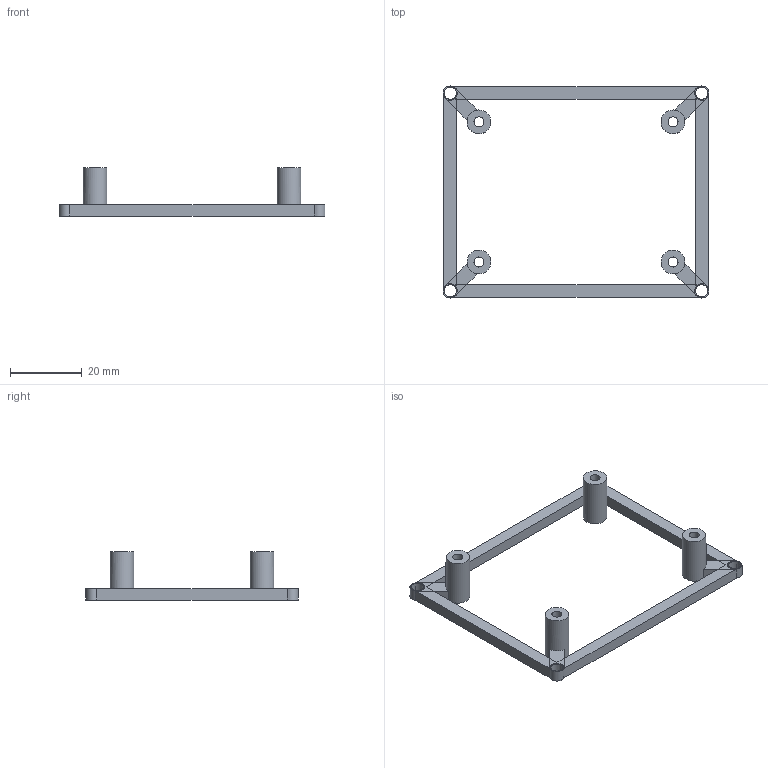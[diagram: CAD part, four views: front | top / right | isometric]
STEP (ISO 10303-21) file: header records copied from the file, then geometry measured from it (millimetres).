
FILE_DESCRIPTION(('Open CASCADE Model'),'2;1');
FILE_NAME('Open CASCADE Shape Model','2026-11-19T15:07:55',('Author'),( 'Open CASCADE'),'Open CASCADE STEP processor 8.0','Open CASCADE 8.0' ,'Unknown');
FILE_SCHEMA(('AUTOMOTIVE_DESIGN { 1 0 10303 214 1 1 1 1 }'));
Length unit declared in the file: millimetre
Products named in the file (1): Open CASCADE STEP translator 8.0 2
Bounding box: 74 x 59 x 13.4 mm (x, y, z)
Volume: 4319 mm3; surface area: 5419.1 mm2
Topology: 1 solids, 1 shells, 210 faces, 482 edges, 264 vertices
Faces by surface type: plane 192, cylinder 18
Full cylindrical faces by diameter (mm): 2.8 x4, 3.4 x4, 6.6 x4
Entity records: 12626 total; most frequent: CARTESIAN_POINT 3049, DIRECTION 1860, LINE 990, VECTOR 990, ORIENTED_EDGE 964, PCURVE 964, DEFINITIONAL_REPRESENTATION 964, EDGE_CURVE 482
